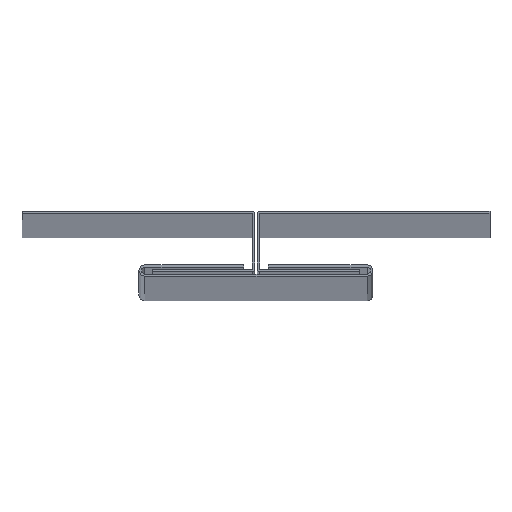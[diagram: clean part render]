
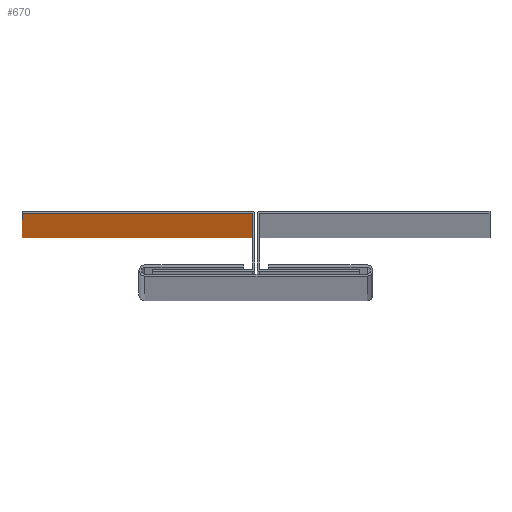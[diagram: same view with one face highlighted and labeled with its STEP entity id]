
A CAD part, top view. The second image highlights one B-rep face of the part: STEP entity #670.
In plain terms, the highlighted planar face has unit normal (0, -1, 0).
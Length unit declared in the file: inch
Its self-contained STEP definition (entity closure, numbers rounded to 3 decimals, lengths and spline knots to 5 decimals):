
#52=FACE_OUTER_BOUND('',#90,.T.);
#90=EDGE_LOOP('',(#475,#476,#477,#478));
#120=LINE('',#973,#200);
#142=LINE('',#1024,#222);
#143=LINE('',#1026,#223);
#144=LINE('',#1027,#224);
#200=VECTOR('',#782,0.3937);
#222=VECTOR('',#828,0.3937);
#223=VECTOR('',#831,0.3937);
#224=VECTOR('',#832,0.3937);
#280=VERTEX_POINT('',#970);
#281=VERTEX_POINT('',#972);
#297=VERTEX_POINT('',#1020);
#298=VERTEX_POINT('',#1022);
#344=EDGE_CURVE('',#280,#281,#120,.T.);
#370=EDGE_CURVE('',#297,#298,#142,.T.);
#371=EDGE_CURVE('',#280,#297,#143,.T.);
#372=EDGE_CURVE('',#281,#298,#144,.T.);
#475=ORIENTED_EDGE('',*,*,#371,.T.);
#476=ORIENTED_EDGE('',*,*,#370,.T.);
#477=ORIENTED_EDGE('',*,*,#372,.F.);
#478=ORIENTED_EDGE('',*,*,#344,.F.);
#638=PLANE('',#736);
#670=ADVANCED_FACE('',(#52),#638,.T.);
#736=AXIS2_PLACEMENT_3D('',#1025,#829,#830);
#782=DIRECTION('',(0.,0.,1.));
#828=DIRECTION('',(0.,0.,1.));
#829=DIRECTION('center_axis',(0.,-1.,0.));
#830=DIRECTION('ref_axis',(1.,0.,0.));
#831=DIRECTION('',(1.,0.,0.));
#832=DIRECTION('',(1.,0.,0.));
#970=CARTESIAN_POINT('',(-2.00346,-0.05989,0.));
#972=CARTESIAN_POINT('',(-2.00346,-0.05989,120.));
#973=CARTESIAN_POINT('',(-2.00346,-0.05989,0.));
#1020=CARTESIAN_POINT('',(-0.03346,-0.05989,0.));
#1022=CARTESIAN_POINT('',(-0.03346,-0.05989,120.));
#1024=CARTESIAN_POINT('',(-0.03346,-0.05989,0.));
#1025=CARTESIAN_POINT('Origin',(-2.00346,-0.05989,0.));
#1026=CARTESIAN_POINT('',(-2.00346,-0.05989,0.));
#1027=CARTESIAN_POINT('',(-2.00346,-0.05989,120.));
